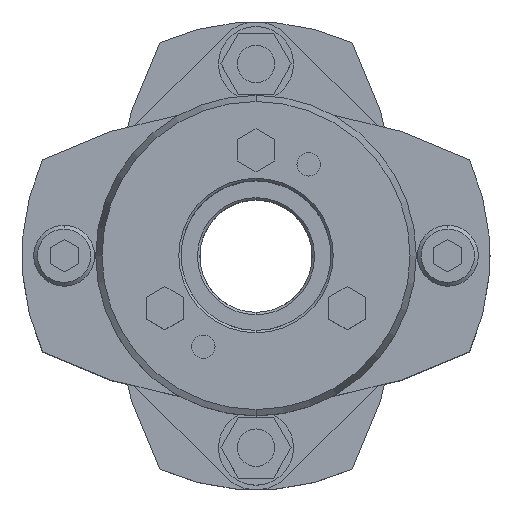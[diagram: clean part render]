
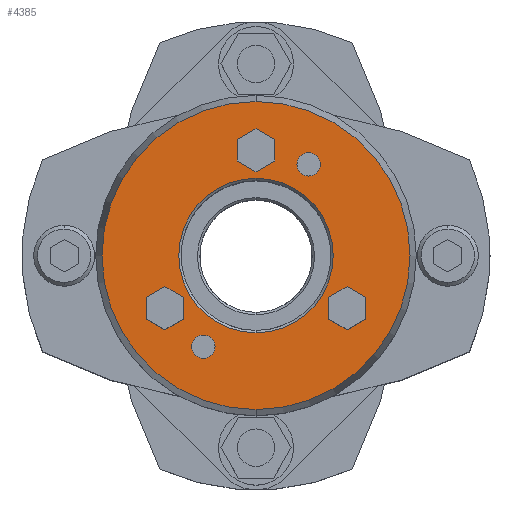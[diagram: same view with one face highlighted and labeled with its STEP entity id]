
A CAD part, top view. The second image highlights one B-rep face of the part: STEP entity #4385.
In plain terms, the highlighted planar face has unit normal (0, 0, 1).
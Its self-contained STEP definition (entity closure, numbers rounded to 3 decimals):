
#2291=CARTESIAN_POINT('',(0.,16.5,55.5));
#2292=VERTEX_POINT('',#2291);
#2308=CARTESIAN_POINT('',(0.,-16.5,55.5));
#2309=VERTEX_POINT('',#2308);
#2316=CARTESIAN_POINT('',(0.,0.,55.5));
#2317=DIRECTION('',(0.0,0.0,1.0));
#2318=DIRECTION('',(0.0,1.0,0.0));
#2319=AXIS2_PLACEMENT_3D('',#2316,#2317,#2318);
#2320=CIRCLE('',#2319,16.5);
#2321=EDGE_CURVE('',#2309,#2292,#2320,.T.);
#2479=CARTESIAN_POINT('',(0.,-32.91,55.5));
#2480=VERTEX_POINT('',#2479);
#2487=CARTESIAN_POINT('',(0.,32.91,55.5));
#2488=VERTEX_POINT('',#2487);
#2489=CARTESIAN_POINT('',(0.,0.,55.5));
#2490=DIRECTION('',(0.0,0.0,-1.0));
#2491=DIRECTION('',(0.0,-1.0,0.0));
#2492=AXIS2_PLACEMENT_3D('',#2489,#2490,#2491);
#2493=CIRCLE('',#2492,32.91);
#2494=EDGE_CURVE('',#2480,#2488,#2493,.T.);
#2589=CARTESIAN_POINT('',(-11.25,-16.986,55.5));
#2590=VERTEX_POINT('',#2589);
#2606=CARTESIAN_POINT('',(-11.25,-21.986,55.5));
#2607=VERTEX_POINT('',#2606);
#2614=CARTESIAN_POINT('',(-11.25,-19.486,55.5));
#2615=DIRECTION('',(0.0,0.0,-1.0));
#2616=DIRECTION('',(0.0,1.0,0.0));
#2617=AXIS2_PLACEMENT_3D('',#2614,#2615,#2616);
#2618=CIRCLE('',#2617,2.5);
#2619=EDGE_CURVE('',#2590,#2607,#2618,.T.);
#2631=CARTESIAN_POINT('',(11.25,21.986,55.5));
#2632=VERTEX_POINT('',#2631);
#2648=CARTESIAN_POINT('',(11.25,16.986,55.5));
#2649=VERTEX_POINT('',#2648);
#2656=CARTESIAN_POINT('',(11.25,19.486,55.5));
#2657=DIRECTION('',(0.0,0.0,-1.0));
#2658=DIRECTION('',(0.0,1.0,0.0));
#2659=AXIS2_PLACEMENT_3D('',#2656,#2657,#2658);
#2660=CIRCLE('',#2659,2.5);
#2661=EDGE_CURVE('',#2632,#2649,#2660,.T.);
#3412=CARTESIAN_POINT('',(11.25,19.486,55.5));
#3413=DIRECTION('',(0.0,0.0,-1.0));
#3414=DIRECTION('',(0.0,1.0,0.0));
#3415=AXIS2_PLACEMENT_3D('',#3412,#3413,#3414);
#3416=CIRCLE('',#3415,2.5);
#3417=EDGE_CURVE('',#2649,#2632,#3416,.T.);
#3446=CARTESIAN_POINT('',(-11.25,-19.486,55.5));
#3447=DIRECTION('',(0.0,0.0,-1.0));
#3448=DIRECTION('',(0.0,1.0,0.0));
#3449=AXIS2_PLACEMENT_3D('',#3446,#3447,#3448);
#3450=CIRCLE('',#3449,2.5);
#3451=EDGE_CURVE('',#2607,#2590,#3450,.T.);
#3489=CARTESIAN_POINT('',(0.,27.119,55.5));
#3490=VERTEX_POINT('',#3489);
#3497=CARTESIAN_POINT('',(-4.,24.809,55.5));
#3498=VERTEX_POINT('',#3497);
#3499=CARTESIAN_POINT('',(-4.,24.809,55.5));
#3500=DIRECTION('',(0.866,0.5,0.0));
#3501=VECTOR('',#3500,4.619);
#3502=LINE('',#3499,#3501);
#3503=EDGE_CURVE('',#3498,#3490,#3502,.T.);
#3527=CARTESIAN_POINT('',(4.,24.809,55.5));
#3528=VERTEX_POINT('',#3527);
#3535=CARTESIAN_POINT('',(0.,27.119,55.5));
#3536=DIRECTION('',(0.866,-0.5,0.0));
#3537=VECTOR('',#3536,4.619);
#3538=LINE('',#3535,#3537);
#3539=EDGE_CURVE('',#3490,#3528,#3538,.T.);
#3558=CARTESIAN_POINT('',(4.,20.191,55.5));
#3559=VERTEX_POINT('',#3558);
#3566=CARTESIAN_POINT('',(4.,24.809,55.5));
#3567=DIRECTION('',(0.0,-1.0,0.0));
#3568=VECTOR('',#3567,4.619);
#3569=LINE('',#3566,#3568);
#3570=EDGE_CURVE('',#3528,#3559,#3569,.T.);
#3589=CARTESIAN_POINT('',(0.,17.881,55.5));
#3590=VERTEX_POINT('',#3589);
#3597=CARTESIAN_POINT('',(4.,20.191,55.5));
#3598=DIRECTION('',(-0.866,-0.5,0.0));
#3599=VECTOR('',#3598,4.619);
#3600=LINE('',#3597,#3599);
#3601=EDGE_CURVE('',#3559,#3590,#3600,.T.);
#3620=CARTESIAN_POINT('',(-4.,20.191,55.5));
#3621=VERTEX_POINT('',#3620);
#3628=CARTESIAN_POINT('',(0.,17.881,55.5));
#3629=DIRECTION('',(-0.866,0.5,0.0));
#3630=VECTOR('',#3629,4.619);
#3631=LINE('',#3628,#3630);
#3632=EDGE_CURVE('',#3590,#3621,#3631,.T.);
#3650=CARTESIAN_POINT('',(-4.,20.191,55.5));
#3651=DIRECTION('',(0.0,1.0,0.0));
#3652=VECTOR('',#3651,4.619);
#3653=LINE('',#3650,#3652);
#3654=EDGE_CURVE('',#3621,#3498,#3653,.T.);
#3689=CARTESIAN_POINT('',(19.486,-6.631,55.5));
#3690=VERTEX_POINT('',#3689);
#3697=CARTESIAN_POINT('',(15.486,-8.941,55.5));
#3698=VERTEX_POINT('',#3697);
#3699=CARTESIAN_POINT('',(15.486,-8.941,55.5));
#3700=DIRECTION('',(0.866,0.5,0.0));
#3701=VECTOR('',#3700,4.619);
#3702=LINE('',#3699,#3701);
#3703=EDGE_CURVE('',#3698,#3690,#3702,.T.);
#3727=CARTESIAN_POINT('',(23.486,-8.941,55.5));
#3728=VERTEX_POINT('',#3727);
#3735=CARTESIAN_POINT('',(19.486,-6.631,55.5));
#3736=DIRECTION('',(0.866,-0.5,0.0));
#3737=VECTOR('',#3736,4.619);
#3738=LINE('',#3735,#3737);
#3739=EDGE_CURVE('',#3690,#3728,#3738,.T.);
#3758=CARTESIAN_POINT('',(23.486,-13.559,55.5));
#3759=VERTEX_POINT('',#3758);
#3766=CARTESIAN_POINT('',(23.486,-8.941,55.5));
#3767=DIRECTION('',(0.0,-1.0,0.0));
#3768=VECTOR('',#3767,4.619);
#3769=LINE('',#3766,#3768);
#3770=EDGE_CURVE('',#3728,#3759,#3769,.T.);
#3789=CARTESIAN_POINT('',(19.486,-15.869,55.5));
#3790=VERTEX_POINT('',#3789);
#3797=CARTESIAN_POINT('',(23.486,-13.559,55.5));
#3798=DIRECTION('',(-0.866,-0.5,0.0));
#3799=VECTOR('',#3798,4.619);
#3800=LINE('',#3797,#3799);
#3801=EDGE_CURVE('',#3759,#3790,#3800,.T.);
#3820=CARTESIAN_POINT('',(15.486,-13.559,55.5));
#3821=VERTEX_POINT('',#3820);
#3828=CARTESIAN_POINT('',(19.486,-15.869,55.5));
#3829=DIRECTION('',(-0.866,0.5,0.0));
#3830=VECTOR('',#3829,4.619);
#3831=LINE('',#3828,#3830);
#3832=EDGE_CURVE('',#3790,#3821,#3831,.T.);
#3850=CARTESIAN_POINT('',(15.486,-13.559,55.5));
#3851=DIRECTION('',(0.0,1.0,0.0));
#3852=VECTOR('',#3851,4.619);
#3853=LINE('',#3850,#3852);
#3854=EDGE_CURVE('',#3821,#3698,#3853,.T.);
#3889=CARTESIAN_POINT('',(-19.486,-6.631,55.5));
#3890=VERTEX_POINT('',#3889);
#3897=CARTESIAN_POINT('',(-23.486,-8.941,55.5));
#3898=VERTEX_POINT('',#3897);
#3899=CARTESIAN_POINT('',(-23.486,-8.941,55.5));
#3900=DIRECTION('',(0.866,0.5,0.0));
#3901=VECTOR('',#3900,4.619);
#3902=LINE('',#3899,#3901);
#3903=EDGE_CURVE('',#3898,#3890,#3902,.T.);
#3927=CARTESIAN_POINT('',(-15.486,-8.941,55.5));
#3928=VERTEX_POINT('',#3927);
#3935=CARTESIAN_POINT('',(-19.486,-6.631,55.5));
#3936=DIRECTION('',(0.866,-0.5,0.0));
#3937=VECTOR('',#3936,4.619);
#3938=LINE('',#3935,#3937);
#3939=EDGE_CURVE('',#3890,#3928,#3938,.T.);
#3958=CARTESIAN_POINT('',(-15.486,-13.559,55.5));
#3959=VERTEX_POINT('',#3958);
#3966=CARTESIAN_POINT('',(-15.486,-8.941,55.5));
#3967=DIRECTION('',(0.0,-1.0,0.0));
#3968=VECTOR('',#3967,4.619);
#3969=LINE('',#3966,#3968);
#3970=EDGE_CURVE('',#3928,#3959,#3969,.T.);
#3989=CARTESIAN_POINT('',(-19.486,-15.869,55.5));
#3990=VERTEX_POINT('',#3989);
#3997=CARTESIAN_POINT('',(-15.486,-13.559,55.5));
#3998=DIRECTION('',(-0.866,-0.5,0.0));
#3999=VECTOR('',#3998,4.619);
#4000=LINE('',#3997,#3999);
#4001=EDGE_CURVE('',#3959,#3990,#4000,.T.);
#4020=CARTESIAN_POINT('',(-23.486,-13.559,55.5));
#4021=VERTEX_POINT('',#4020);
#4028=CARTESIAN_POINT('',(-19.486,-15.869,55.5));
#4029=DIRECTION('',(-0.866,0.5,0.0));
#4030=VECTOR('',#4029,4.619);
#4031=LINE('',#4028,#4030);
#4032=EDGE_CURVE('',#3990,#4021,#4031,.T.);
#4050=CARTESIAN_POINT('',(-23.486,-13.559,55.5));
#4051=DIRECTION('',(0.0,1.0,0.0));
#4052=VECTOR('',#4051,4.619);
#4053=LINE('',#4050,#4052);
#4054=EDGE_CURVE('',#4021,#3898,#4053,.T.);
#4324=CARTESIAN_POINT('',(0.,0.,55.5));
#4325=DIRECTION('',(0.0,0.0,-1.0));
#4326=DIRECTION('',(0.0,-1.0,0.0));
#4327=AXIS2_PLACEMENT_3D('',#4324,#4325,#4326);
#4328=CIRCLE('',#4327,32.91);
#4329=EDGE_CURVE('',#2488,#2480,#4328,.T.);
#4334=CARTESIAN_POINT('',(0.,3.114,55.5));
#4335=DIRECTION('',(0.0,0.0,1.0));
#4336=DIRECTION('',(0.0,1.0,0.0));
#4337=AXIS2_PLACEMENT_3D('',#4334,#4335,#4336);
#4338=PLANE('',#4337);
#4339=ORIENTED_EDGE('',*,*,#4329,.F.);
#4340=ORIENTED_EDGE('',*,*,#2494,.F.);
#4341=EDGE_LOOP('',(#4339,#4340));
#4342=FACE_OUTER_BOUND('',#4341,.T.);
#4343=ORIENTED_EDGE('',*,*,#2661,.T.);
#4344=ORIENTED_EDGE('',*,*,#3417,.T.);
#4345=EDGE_LOOP('',(#4343,#4344));
#4346=FACE_BOUND('',#4345,.T.);
#4347=ORIENTED_EDGE('',*,*,#2619,.T.);
#4348=ORIENTED_EDGE('',*,*,#3451,.T.);
#4349=EDGE_LOOP('',(#4347,#4348));
#4350=FACE_BOUND('',#4349,.T.);
#4351=ORIENTED_EDGE('',*,*,#3503,.T.);
#4352=ORIENTED_EDGE('',*,*,#3539,.T.);
#4353=ORIENTED_EDGE('',*,*,#3570,.T.);
#4354=ORIENTED_EDGE('',*,*,#3601,.T.);
#4355=ORIENTED_EDGE('',*,*,#3632,.T.);
#4356=ORIENTED_EDGE('',*,*,#3654,.T.);
#4357=EDGE_LOOP('',(#4351,#4352,#4353,#4354,#4355,#4356));
#4358=FACE_BOUND('',#4357,.T.);
#4359=ORIENTED_EDGE('',*,*,#3703,.T.);
#4360=ORIENTED_EDGE('',*,*,#3739,.T.);
#4361=ORIENTED_EDGE('',*,*,#3770,.T.);
#4362=ORIENTED_EDGE('',*,*,#3801,.T.);
#4363=ORIENTED_EDGE('',*,*,#3832,.T.);
#4364=ORIENTED_EDGE('',*,*,#3854,.T.);
#4365=EDGE_LOOP('',(#4359,#4360,#4361,#4362,#4363,#4364));
#4366=FACE_BOUND('',#4365,.T.);
#4367=ORIENTED_EDGE('',*,*,#3903,.T.);
#4368=ORIENTED_EDGE('',*,*,#3939,.T.);
#4369=ORIENTED_EDGE('',*,*,#3970,.T.);
#4370=ORIENTED_EDGE('',*,*,#4001,.T.);
#4371=ORIENTED_EDGE('',*,*,#4032,.T.);
#4372=ORIENTED_EDGE('',*,*,#4054,.T.);
#4373=EDGE_LOOP('',(#4367,#4368,#4369,#4370,#4371,#4372));
#4374=FACE_BOUND('',#4373,.T.);
#4375=ORIENTED_EDGE('',*,*,#2321,.F.);
#4376=CARTESIAN_POINT('',(0.,0.,55.5));
#4377=DIRECTION('',(0.0,0.0,1.0));
#4378=DIRECTION('',(0.0,1.0,0.0));
#4379=AXIS2_PLACEMENT_3D('',#4376,#4377,#4378);
#4380=CIRCLE('',#4379,16.5);
#4381=EDGE_CURVE('',#2292,#2309,#4380,.T.);
#4382=ORIENTED_EDGE('',*,*,#4381,.F.);
#4383=EDGE_LOOP('',(#4375,#4382));
#4384=FACE_BOUND('',#4383,.T.);
#4385=ADVANCED_FACE('',(#4342,#4346,#4350,#4358,#4366,#4374,#4384),#4338,.T.);
